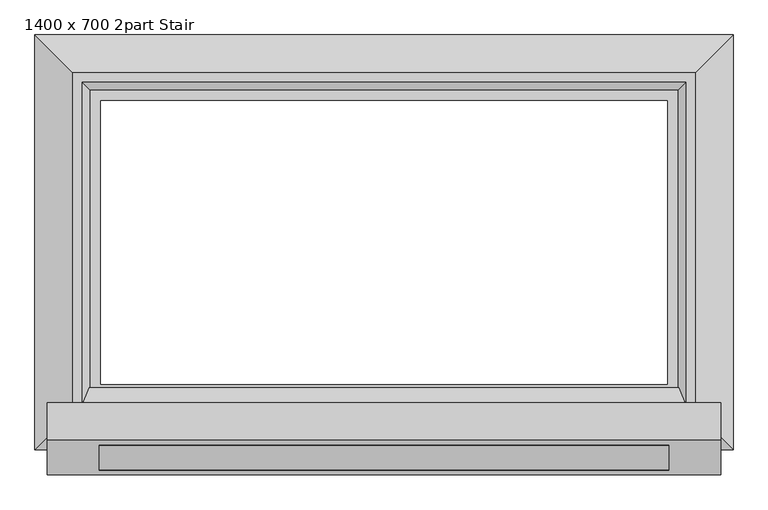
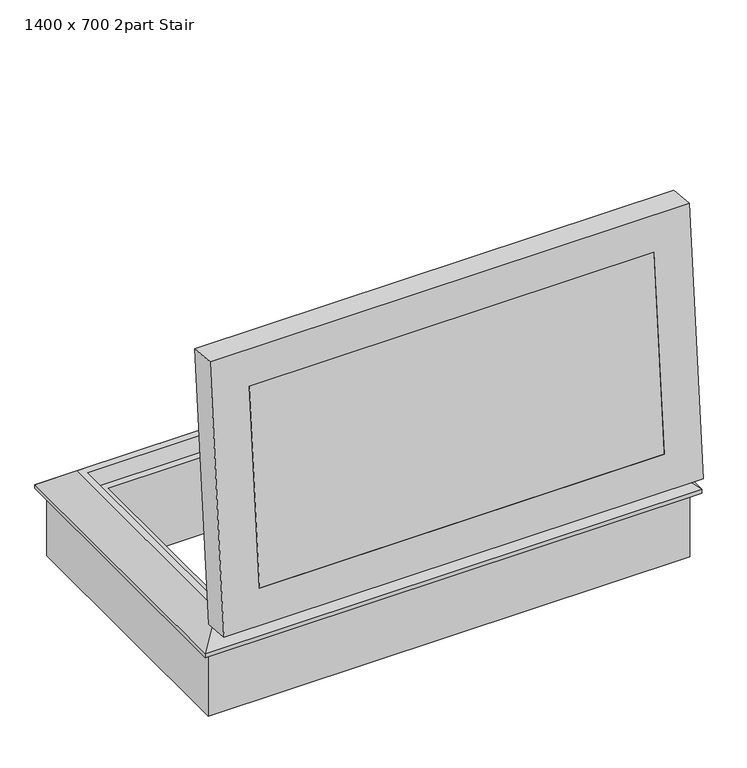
"""IFC4 building model written with IfcOpenShell, lengths in millimetres: proxy geometry, 3_Topaccess_dakluik_1400x700_Staka : 1400 x 700 2part Stair."""

from ifc_helpers import new_model, si_unit, point, frame, frame_2d, origin, place, context, project, spatial, polyline, circle_curve, trimmed, segment, composite_curve, outline, extrude, faceted_brep, source, transform, mapped, element, save


def proxy_1400_x_700_2part_stair_cbd6cccc(model_context):
    return source(origin(), model_context, "Body", "SolidModel", [
        extrude(outline(composite_curve([segment(polyline([(-337.9796219, 326.3276635), (-304.1131378, 313.8268133), (-350.9652664, 276.3451105), (-360.9083022, 288.7739053)]), True, "CONTINUOUS"), segment(trimmed(circle_curve(frame_2d((-355.6020334, 290.8827554)), 5.7099682), [point((-360.9083022, 288.7739053))], [point((-361.2421664, 291.7730571))], False, "CARTESIAN"), True, "CONTINUOUS"), segment(polyline([(-361.2421664, 291.7730571), (-353.9328322, 338.0782805)]), True, "CONTINUOUS"), segment(trimmed(circle_curve(frame_2d((-347.7421268, 335.4312659)), 6.7328687), [point((-353.9328322, 338.0782805))], [point((-341.0984298, 334.3391069))], False, "CARTESIAN"), True, "CONTINUOUS"), segment(trimmed(circle_curve(frame_2d((-332.7673504, 332.9695587)), 8.4428992), [point((-341.0984298, 334.3391069))], [point((-337.9796219, 326.3276635))], True, "CARTESIAN"), True, "CONTINUOUS")], self_intersect=False)), frame((-1499.5746478, 0.0, 0.0), z_axis=(1.0, 0.0, 0.0), x_axis=(0.0, 1.0, 0.0)), (0.0, 0.0, 1.0), 27.3677514),
        extrude(outline(composite_curve([segment(polyline([(-337.9796219, 326.3276635), (-304.1131378, 313.8268133), (-350.9652664, 276.3451105), (-360.9083022, 288.7739053)]), True, "CONTINUOUS"), segment(trimmed(circle_curve(frame_2d((-355.6020334, 290.8827554)), 5.7099682), [point((-360.9083022, 288.7739053))], [point((-361.2421664, 291.7730571))], False, "CARTESIAN"), True, "CONTINUOUS"), segment(polyline([(-361.2421664, 291.7730571), (-353.9328322, 338.0782805)]), True, "CONTINUOUS"), segment(trimmed(circle_curve(frame_2d((-347.7421268, 335.4312659)), 6.7328687), [point((-353.9328322, 338.0782805))], [point((-341.0984298, 334.3391069))], False, "CARTESIAN"), True, "CONTINUOUS"), segment(trimmed(circle_curve(frame_2d((-332.7673504, 332.9695587)), 8.4428992), [point((-341.0984298, 334.3391069))], [point((-337.9796219, 326.3276635))], True, "CARTESIAN"), True, "CONTINUOUS")], self_intersect=False)), frame((-182.3370746, 0.0, 0.0), z_axis=(1.0, 0.0, 0.0), x_axis=(0.0, 1.0, 0.0)), (0.0, 0.0, 1.0), 29.9861856),
        faceted_brep([(-61.2697623, 553.4470955, 328.0), (30.7302377, 645.4470955, 254.4), (-1693.2697623, 645.4470955, 254.4), (-1601.2697623, 553.4470955, 328.0), (-105.2697623, 509.4470955, 282.0), (-85.7439208, 528.9729371, 328.0), (-1576.7956039, 528.9729371, 328.0), (-1557.2697623, 509.4470955, 282.0), (-131.2697623, 483.4470955, 0.0), (-131.2697623, 483.4470955, 282.0), (-1531.2697623, 483.4470955, 282.0), (-1531.2697623, 483.4470955, 0.0), (4.7302377, 619.4470955, 240.0), (4.7302377, 619.4470955, 0.0), (-1667.2697623, 619.4470955, 0.0), (-1667.2697623, 619.4470955, 240.0), (30.7302377, 645.4470955, 240.0), (-1693.2697623, 645.4470955, 240.0), (-1693.2697623, -378.5529045, 254.4), (-1601.2697623, -286.5529045, 328.0), (-1576.7956039, -262.078746, 328.0), (-1557.2697623, -242.5529045, 282.0), (-1531.2697623, -216.5529045, 282.0), (-1531.2697623, -216.5529045, 0.0), (-1667.2697623, -352.5529045, 0.0), (-1667.2697623, -352.5529045, 240.0), (-1693.2697623, -378.5529045, 240.0), (30.7302377, -378.5529045, 254.4), (-61.2697623, -286.5529045, 328.0), (-85.7439208, -262.078746, 328.0), (-105.2697623, -242.5529045, 282.0), (-131.2697623, -216.5529045, 282.0), (-131.2697623, -216.5529045, 0.0), (4.7302377, -352.5529045, 0.0), (4.7302377, -352.5529045, 240.0), (30.7302377, -378.5529045, 240.0)], [[[0, 1, 2, 3]], [[4, 5, 6, 7]], [[8, 9, 10, 11]], [[12, 13, 14, 15]], [[1, 16, 17, 2]], [[3, 2, 18, 19]], [[7, 6, 20, 21]], [[11, 10, 22, 23]], [[15, 14, 24, 25]], [[2, 17, 26, 18]], [[19, 18, 27, 28]], [[21, 20, 29, 30]], [[23, 22, 31, 32]], [[25, 24, 33, 34]], [[18, 26, 35, 27]], [[28, 27, 1, 0]], [[3, 19, 28, 0], [5, 29, 20, 6]], [[30, 29, 5, 4]], [[7, 21, 30, 4], [9, 31, 22, 10]], [[32, 31, 9, 8]], [[13, 33, 24, 14], [11, 23, 32, 8]], [[34, 33, 13, 12]], [[16, 35, 26, 17], [15, 25, 34, 12]], [[27, 35, 16, 1]]]),
        extrude(outline(polyline([(0.0, -1405.9943431), (0.0, 0.0), (139.4, 0.0), (139.4, -1405.9943431), (0.0, -1405.9943431)])), frame((-1534.2669339, -428.8183427, 470.0146001), z_axis=(0.0, 0.08715574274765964, 0.9961946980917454), x_axis=(0.0, 0.9961946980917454, -0.08715574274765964)), (0.0, 0.0, 1.0), 706.0),
        faceted_brep([(-128.2725908, -228.4168474, 1161.1785464), (-128.2725908, -367.2863883, 1173.328057), (-1534.2669339, -367.2863883, 1173.328057), (-1534.2669339, -228.4168474, 1161.1785464), (-85.2725908, -270.8925845, 1208.0589449), (-102.8725908, -226.2030916, 1186.4818918), (-1559.6669339, -226.2030916, 1186.4818918), (-1577.2669339, -270.8925845, 1208.0589449), (0.7274092, -356.0432975, 1301.837173), (0.7274092, -263.3971906, 1293.731689), (-1663.2669339, -263.3971906, 1293.731689), (-1663.2669339, -356.0432975, 1301.837173), (-1534.2669339, -428.8183427, 470.0146001), (-1534.2669339, -289.9488018, 457.8650896), (-1559.6669339, -292.1625577, 432.5617443), (-1577.2669339, -339.9199327, 419.072744), (-1663.2669339, -347.4153266, 333.4), (-1663.2669339, -440.0614335, 341.5054841), (-128.2725908, -428.8183427, 470.0146001), (-128.2725908, -289.9488018, 457.8650896), (-102.8725908, -292.1625577, 432.5617443), (-85.2725908, -339.9199327, 419.072744), (0.7274092, -347.4153266, 333.4), (0.7274092, -440.0614335, 341.5054841)], [[[0, 1, 2, 3]], [[4, 5, 6, 7]], [[8, 9, 10, 11]], [[3, 2, 12, 13]], [[7, 6, 14, 15]], [[11, 10, 16, 17]], [[13, 12, 18, 19]], [[15, 14, 20, 21]], [[17, 16, 22, 23]], [[19, 18, 1, 0]], [[5, 20, 14, 6], [3, 13, 19, 0]], [[21, 20, 5, 4]], [[9, 22, 16, 10], [7, 15, 21, 4]], [[23, 22, 9, 8]], [[11, 17, 23, 8], [1, 18, 12, 2]]]),
    ])


if __name__ == "__main__":
    model = new_model("IFC4")
    model_context = context("Model", 3, world=origin())
    ifc_project = project(units=[si_unit("LENGTHUNIT", "METRE", prefix="MILLI")], contexts=[model_context])
    site = spatial("IfcSite", under=ifc_project)
    building = spatial("IfcBuilding", under=site)
    placement = place(None, origin())
    proxy_1400_x_700_2part_stair_shape = proxy_1400_x_700_2part_stair_cbd6cccc(model_context)
    element("IfcBuildingElementProxy", 1, Name="3_Topaccess_dakluik_1400x700_Staka : 1400 x 700 2part Stair", ObjectType="3_Topaccess_dakluik_1400x700_Staka : 1400 x 700 2part Stair", at=placement, inside=building, context=model_context, shape_type="MappedRepresentation", body=[
        mapped(proxy_1400_x_700_2part_stair_shape, transform((0.0, 0.0, 0.0), x_axis=(1.0, 0.0, 0.0), y_axis=(0.0, 1.0, 0.0), z_axis=(0.0, 0.0, 1.0))),
    ])
    save(model, "model.ifc")
